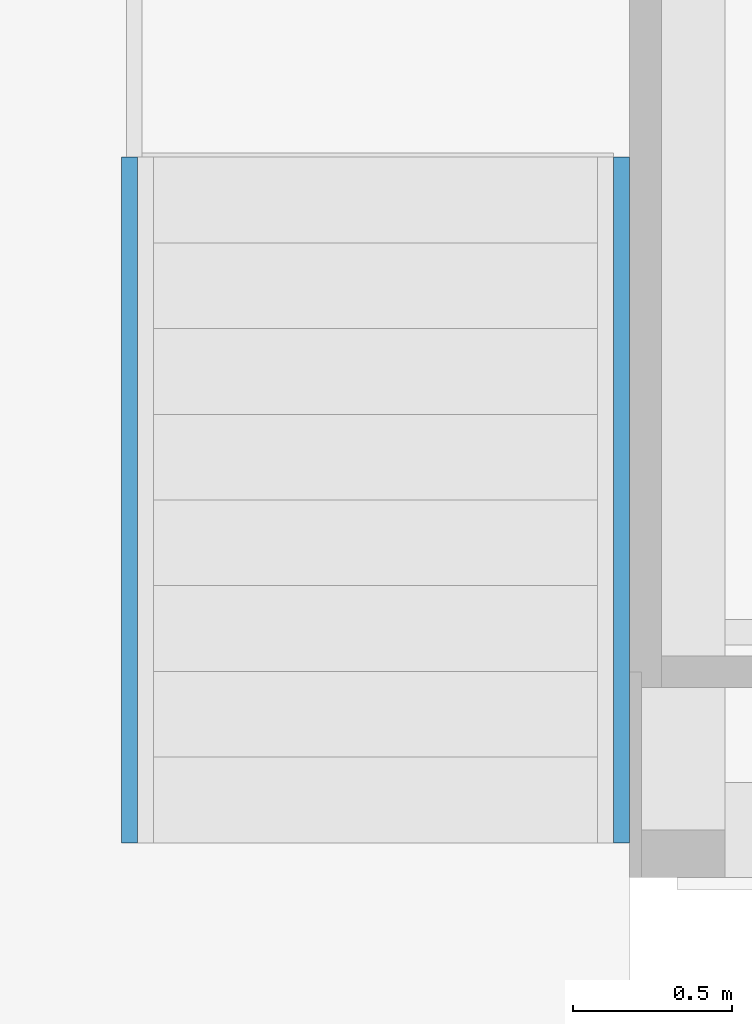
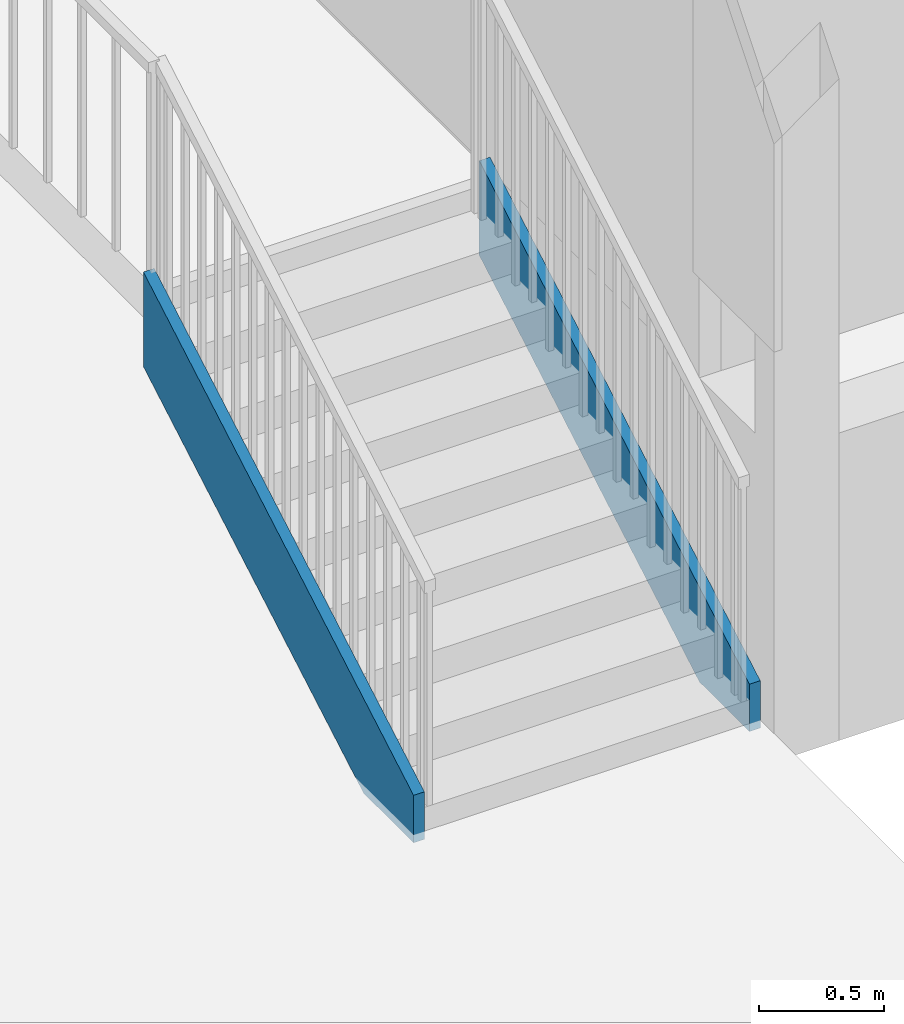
# One storey, part 1 of 64: 2 members, 1 element without a shape of its own.
"""IFC2X3 building model written with IfcOpenShell, lengths in millimetres."""

from ifc_helpers import new_model, entity, si_unit, converted_unit, derived_unit, direction, frame, origin, place, context, subcontext, project, spatial, polyline, outline, extrude, type_object, element, aggregate, save


model = new_model("IFC2X3")

# Units and contexts
model_context = context("Model", 3, precision=0.01, world=origin(), true_north=direction((4.05803320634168e-15, -1.0)))
body_context = subcontext(model_context, "Body", "Model", "MODEL_VIEW")
ifc_project = project(units=[si_unit("LENGTHUNIT", "METRE", prefix="MILLI"), si_unit("AREAUNIT", "SQUARE_METRE"), si_unit("VOLUMEUNIT", "CUBIC_METRE"), converted_unit("PLANEANGLEUNIT", "DEGREE", entity("IfcRatioMeasure", 0.0174532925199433), si_unit("PLANEANGLEUNIT", "RADIAN"), dimensions=[0, 0, 0, 0, 0, 0, 0]), si_unit("MASSUNIT", "GRAM", prefix="KILO"), derived_unit("MASSDENSITYUNIT", [(si_unit("MASSUNIT", "GRAM", prefix="KILO"), 1), (si_unit("LENGTHUNIT", "METRE"), -3)]), si_unit("TIMEUNIT", "SECOND"), si_unit("FREQUENCYUNIT", "HERTZ"), si_unit("THERMODYNAMICTEMPERATUREUNIT", "DEGREE_CELSIUS"), derived_unit("THERMALTRANSMITTANCEUNIT", [(si_unit("MASSUNIT", "GRAM", prefix="KILO"), 1), (si_unit("THERMODYNAMICTEMPERATUREUNIT", "KELVIN"), -1), (si_unit("TIMEUNIT", "SECOND"), -3)]), derived_unit("VOLUMETRICFLOWRATEUNIT", [(si_unit("LENGTHUNIT", "METRE"), 3), (si_unit("TIMEUNIT", "SECOND"), -1)]), si_unit("ELECTRICCURRENTUNIT", "AMPERE"), si_unit("ELECTRICVOLTAGEUNIT", "VOLT"), si_unit("POWERUNIT", "WATT"), si_unit("FORCEUNIT", "NEWTON", prefix="KILO"), si_unit("ILLUMINANCEUNIT", "LUX"), si_unit("LUMINOUSFLUXUNIT", "LUMEN"), si_unit("LUMINOUSINTENSITYUNIT", "CANDELA"), derived_unit("USERDEFINED", [(si_unit("MASSUNIT", "GRAM", prefix="KILO"), -1), (si_unit("LENGTHUNIT", "METRE"), -2), (si_unit("TIMEUNIT", "SECOND"), 3), (si_unit("LUMINOUSFLUXUNIT", "LUMEN"), 1)]), derived_unit("LINEARVELOCITYUNIT", [(si_unit("LENGTHUNIT", "METRE"), 1), (si_unit("TIMEUNIT", "SECOND"), -1)]), si_unit("PRESSUREUNIT", "PASCAL"), derived_unit("USERDEFINED", [(si_unit("LENGTHUNIT", "METRE"), -2), (si_unit("MASSUNIT", "GRAM", prefix="KILO"), 1), (si_unit("TIMEUNIT", "SECOND"), -2)])], contexts=[model_context])

# Site, building, storey
site_placement = place(None, frame((927466.849349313, 583801.882853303, 0.0), z_axis=(0.0, 0.0, 1.0), x_axis=(-1.0, 0.0, 0.0)))
site = spatial("IfcSite", under=ifc_project, at=site_placement, Name="Surface", CompositionType="ELEMENT")
building_placement = place(site_placement, origin())
building = spatial("IfcBuilding", under=site, at=building_placement, CompositionType="ELEMENT")
storey_placement = place(building_placement, frame((0.0, 0.0, 44170.0)))
storey = spatial("IfcBuildingStorey", under=building, at=storey_placement, Name="Ground FFL", CompositionType="ELEMENT", Elevation=44170.0)

# Stair, members
stair_placement = place(storey_placement, origin())
stair = element("IfcStair", 1, at=stair_placement, inside=storey, Name="Assembled Stair:Stair", ObjectType="Assembled Stair:170mm max riser 270mm going", ShapeType="NOTDEFINED")
member_type = type_object("IfcMemberType", Name="Stringer:Stringer - 50mm Width", PredefinedType="STRINGER")
member_1_placement = place(stair_placement, origin())
member_1 = element("IfcMember", 2, at=member_1_placement, type_object=member_type, Name="Assembled Stair:Stair:371358 Stringer 1", ObjectType="Assembled Stair:170mm max riser 270mm going", context=body_context, shape_type="SweptSolid", body=[
    extrude(outline(polyline([(-974.13104637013, -200.08715778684), (1518.70709023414, -200.08715778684), (1288.25441533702, 199.912842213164), (-743.222003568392, 199.912842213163), (-1089.60845563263, 0.34863114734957), (-974.13104637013, -200.08715778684)])), frame((-43049.0423298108, 11033.2284842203, -855.756788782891), z_axis=(1.0, 0.0, 0.0), x_axis=(0.0, -0.866482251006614, 0.499207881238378)), (0.0, 0.0, 1.0), 49.9999999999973),
])
member_2_placement = place(stair_placement, origin())
member_2 = element("IfcMember", 3, at=member_2_placement, type_object=member_type, Name="Assembled Stair:Stair:371358 Stringer 2", ObjectType="Assembled Stair:170mm max riser 270mm going", context=body_context, shape_type="SweptSolid", body=[
    extrude(outline(polyline([(-974.13104637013, -200.08715778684), (1518.70709023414, -200.08715778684), (1288.25441533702, 199.912842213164), (-743.222003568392, 199.912842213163), (-1089.60845563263, 0.34863114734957), (-974.13104637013, -200.08715778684)])), frame((-44599.0423298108, 11033.2284842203, -855.756788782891), z_axis=(1.0, 0.0, 0.0), x_axis=(0.0, -0.866482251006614, 0.499207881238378)), (0.0, 0.0, 1.0), 49.9999999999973),
])
aggregate(stair, [member_1, member_2])

save(model, "model.ifc")
